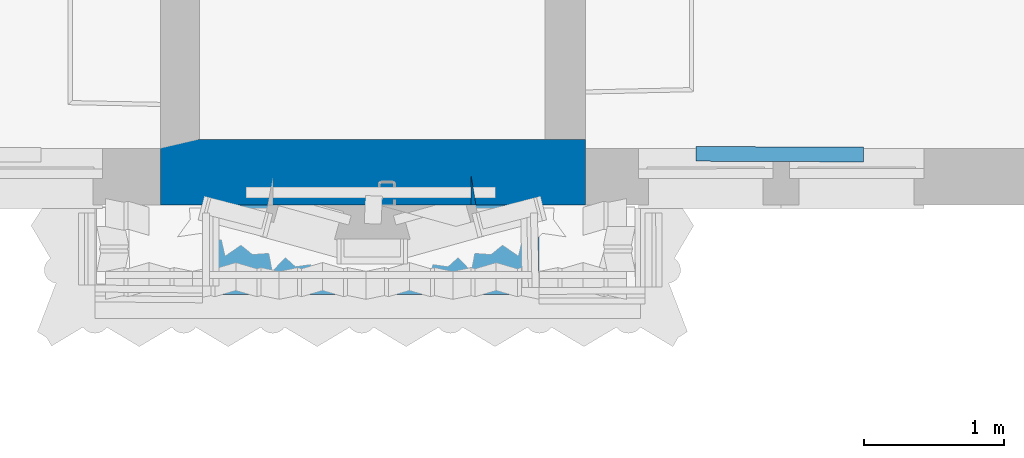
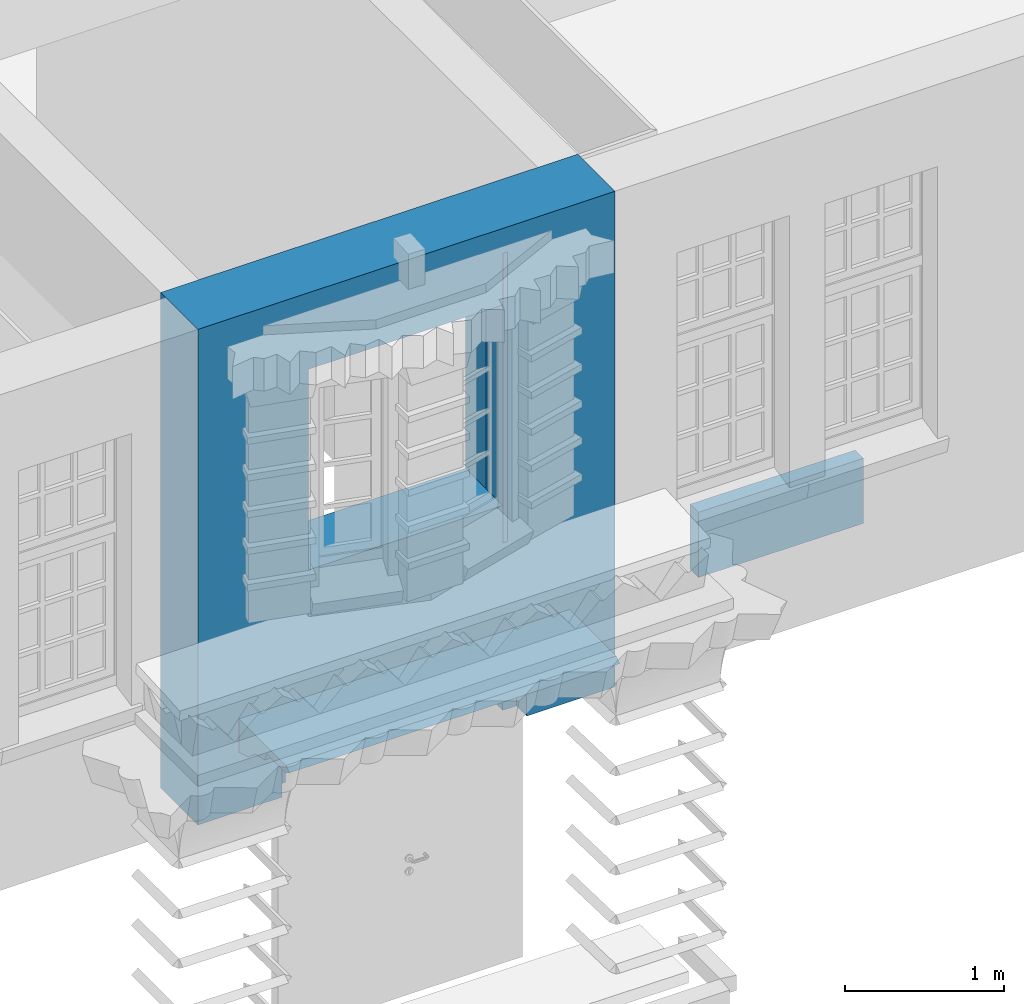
# One storey, part 28 of 158: 4 walls, 2 openings.
"""IFC2X3 building model written with IfcOpenShell, lengths in metres."""

from ifc_helpers import new_model, entity, si_unit, converted_unit, derived_unit, money_unit, direction, frame, origin_with_axes, origin_2d_with_axis, place, context, subcontext, project, spatial, polyline, rectangle, outline, extrude, material, layer, layer_set, layer_usage, type_object, element, save


model = new_model("IFC2X3")

# Units and contexts
model_context = context("Model", 3, precision=1e-05, world=origin_with_axes(), true_north=direction((0.0, 1.0)))
body_context = subcontext(model_context, "Body", "Model", "MODEL_VIEW")
ifc_project = project(units=[si_unit("LENGTHUNIT", "METRE"), si_unit("AREAUNIT", "SQUARE_METRE"), si_unit("VOLUMEUNIT", "CUBIC_METRE"), converted_unit("PLANEANGLEUNIT", "DEGREE", entity("IfcPlaneAngleMeasure", 0.0174532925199), si_unit("PLANEANGLEUNIT", "RADIAN"), dimensions=[0, 0, 0, 0, 0, 0, 0]), money_unit("EUR"), converted_unit("TIMEUNIT", "Year", entity("IfcTimeMeasure", 31556926.0), si_unit("TIMEUNIT", "SECOND"), dimensions=[0, 0, 1, 0, 0, 0, 0]), si_unit("MASSUNIT", "GRAM", prefix="KILO"), si_unit("THERMODYNAMICTEMPERATUREUNIT", "DEGREE_CELSIUS"), si_unit("LUMINOUSINTENSITYUNIT", "LUMEN"), si_unit("ENERGYUNIT", "JOULE", prefix="MEGA"), derived_unit("THERMALCONDUCTANCEUNIT", [(si_unit("POWERUNIT", "WATT"), 1), (si_unit("LENGTHUNIT", "METRE"), -1), (si_unit("THERMODYNAMICTEMPERATUREUNIT", "KELVIN"), -1)]), derived_unit("SPECIFICHEATCAPACITYUNIT", [(si_unit("ENERGYUNIT", "JOULE"), 1), (si_unit("MASSUNIT", "GRAM", prefix="KILO"), -1), (si_unit("THERMODYNAMICTEMPERATUREUNIT", "KELVIN"), -1)]), derived_unit("MASSDENSITYUNIT", [(si_unit("MASSUNIT", "GRAM", prefix="KILO"), 1), (si_unit("VOLUMEUNIT", "CUBIC_METRE"), -1)])], contexts=[model_context])

# Site, building, storey
site_placement = place(None, origin_with_axes())
site = spatial("IfcSite", under=ifc_project, at=site_placement, Name="Gelände", CompositionType="ELEMENT")
building_placement = place(site_placement, origin_with_axes())
building = spatial("IfcBuilding", under=site, at=building_placement, Name="Gebäude", CompositionType="ELEMENT")
storey_placement = place(building_placement, origin_with_axes())
storey = spatial("IfcBuildingStorey", under=building, at=storey_placement, Name="ERDGESCHOSS", CompositionType="ELEMENT", Elevation=0.0)

# Wall, openings
ifc_material_1 = material(Name="05_ALLGEMEIN - TRAGENDE BAUTEILE")
ifc_layer_1 = layer(ifc_material_1, 0.47, ventilated="UNKNOWN")
ifc_layer_set_1 = layer_set([ifc_layer_1], Name="05_ALLGEMEIN - TRAGENDE BAUTEILE 0.47")
ifc_layer_usage_1 = layer_usage(ifc_layer_set_1, "AXIS2", "NEGATIVE", 0.47)
wall_type_1 = type_object("IfcWallType", Name="05_ALLGEMEIN - TRAGENDE BAUTEILE 470", PredefinedType="ELEMENTEDWALL")
wall_1_placement = place(storey_placement, frame((-8.89051999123, 9.99464272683, -0.21), z_axis=(0.0, 0.0, 1.0), x_axis=(0.999999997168, 7.52624069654e-05, 0.0)))
wall_1 = element("IfcWallStandardCase", 1, at=wall_1_placement, inside=storey, type_object=wall_type_1, material=ifc_layer_usage_1, Name="Wand-030", ObjectType="ELEMENTEDWALL", context=body_context, shape_type="SweptSolid", body=[
    extrude(outline(polyline([(0.0, 0.0), (3.03360204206, 0.0), (3.03360204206, 0.47), (0.0, 0.47), (0.0, 0.0)])), origin_with_axes(), (0.0, 0.0, 1.0), 3.81),
])
opening_1_placement = place(wall_1_placement, frame((1.51100079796, 0.0, 1.6803505), z_axis=(0.0, 0.0, 1.0), x_axis=(1.0, 0.0, 0.0)))
element("IfcOpeningElement", 2, at=opening_1_placement, cuts=wall_1, Name="Fenster-020", context=body_context, shape_type="SweptSolid", body=[
    extrude(rectangle(XDim=1.41303795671, YDim=1.541511, at=origin_2d_with_axis()), frame((0.0, 0.47, 0.7707555), z_axis=(0.0, -1.0, 0.0), x_axis=(1.0, 0.0, 0.0)), (0.0, 0.0, 1.0), 1.41),
])
opening_2_placement = place(wall_1_placement, frame((1.50086102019, 0.0, -1.8787885), z_axis=(0.0, 0.0, 1.0), x_axis=(1.0, 0.0, 0.0)))
element("IfcOpeningElement", 3, at=opening_2_placement, cuts=wall_1, Name="Tür-022", context=body_context, shape_type="SweptSolid", body=[
    extrude(rectangle(XDim=1.57985048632, YDim=2.117559, at=origin_2d_with_axis()), frame((0.0, 0.13, 1.0587795), z_axis=(0.0, 1.0, 0.0), x_axis=(1.0, 0.0, 0.0)), (0.0, 0.0, 1.0), 0.81),
    extrude(rectangle(XDim=1.77985048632, YDim=2.217559, at=origin_2d_with_axis()), frame((0.0, 0.05, 1.1087795), z_axis=(0.0, -1.0, 0.0), x_axis=(1.0, 0.0, 0.0)), (0.0, 0.0, -1.0), 0.08),
    extrude(rectangle(XDim=1.77985048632, YDim=2.217559, at=origin_2d_with_axis()), frame((0.0, 0.05, 1.1087795), z_axis=(0.0, -1.0, 0.0), x_axis=(1.0, 0.0, 0.0)), (0.0, 0.0, 1.0), 0.52),
])

# Walls
ifc_material_2 = material(Name="01_ALLGEMEIN - BAUTEIL")
ifc_layer_2 = layer(ifc_material_2, 0.105, ventilated="UNKNOWN")
ifc_layer_set_2 = layer_set([ifc_layer_2], Name="01_ALLGEMEIN - BAUTEIL 0.105")
ifc_layer_usage_2 = layer_usage(ifc_layer_set_2, "AXIS2", "NEGATIVE", 0.105)
wall_type_2 = type_object("IfcWallType", Name="01_ALLGEMEIN - BAUTEIL 105", PredefinedType="ELEMENTEDWALL")
wall_2_placement = place(storey_placement, frame((-3.87252723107, 10.4084689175, 0.164146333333), z_axis=(0.0, 0.0, 1.0), x_axis=(-0.999989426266, 0.00459862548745, 0.0)))
element("IfcWallStandardCase", 4, at=wall_2_placement, inside=storey, type_object=wall_type_2, material=ifc_layer_usage_2, Name="Wand-036", ObjectType="ELEMENTEDWALL", context=body_context, shape_type="SweptSolid", body=[
    extrude(outline(polyline([(0.0, 0.0), (1.19647943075, 0.0), (1.19647943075, 0.105), (0.0, 0.105), (0.0, 0.0)])), origin_with_axes(), (0.0, 0.0, 1.0), 0.501014),
])
ifc_layer_3 = layer(ifc_material_1, 0.052, ventilated="UNKNOWN")
ifc_layer_set_3 = layer_set([ifc_layer_3], Name="05_ALLGEMEIN - TRAGENDE BAUTEILE 0.052")
ifc_layer_usage_3 = layer_usage(ifc_layer_set_3, "AXIS2", "NEGATIVE", 0.052)
wall_type_3 = type_object("IfcWallType", Name="05_ALLGEMEIN - TRAGENDE BAUTEILE 52", PredefinedType="ELEMENTEDWALL")
wall_3_placement = place(storey_placement, frame((-6.62132754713, 9.88793561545, 1.18241446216), z_axis=(0.0, 0.0, 1.0), x_axis=(0.0, 1.0, 0.0)))
element("IfcWallStandardCase", 5, at=wall_3_placement, inside=storey, type_object=wall_type_3, material=ifc_layer_usage_3, Name="Wand-031", ObjectType="ELEMENTEDWALL", context=body_context, shape_type="SweptSolid", body=[
    extrude(outline(polyline([(0.10687398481, 0.0520000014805), (0.106876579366, 0.0174913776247), (0.31773270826, 0.0520000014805), (0.10687398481, 0.0520000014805)])), origin_with_axes(), (0.0, 0.0, 1.0), 2.22476603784),
])
wall_type_4 = type_object("IfcWallType", Name="Fassade Sims Eingang 2 636 x 260", PredefinedType="ELEMENTEDWALL")
wall_4_placement = place(storey_placement, frame((-8.59190018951, 9.99477733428, 0.501435), z_axis=(0.0, 0.0, 1.0), x_axis=(1.0, 0.0, 0.0)))
element("IfcWall", 6, at=wall_4_placement, inside=storey, type_object=wall_type_4, material=ifc_material_2, Name="Wand-040", ObjectType="ELEMENTEDWALL", context=body_context, shape_type="SweptSolid", body=[
    extrude(outline(polyline([(0.0, 0.0), (0.0, -0.259668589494), (0.00749856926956, -0.254058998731), (0.116898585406, -0.221071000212), (0.204319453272, -0.146114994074), (0.325668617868, -0.118481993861), (0.350840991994, -0.0556039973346), (0.588115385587, -0.059014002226), (0.635868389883, -0.0301750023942), (0.590117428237, 0.0), (0.0, 0.0)])), frame((0.0, 0.0, 0.0), z_axis=(-1.0, 0.0, 0.0), x_axis=(0.0, -1.0, 0.0)), (0.0, 0.0, -1.0), 2.40356686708),
])

save(model, "model.ifc")
